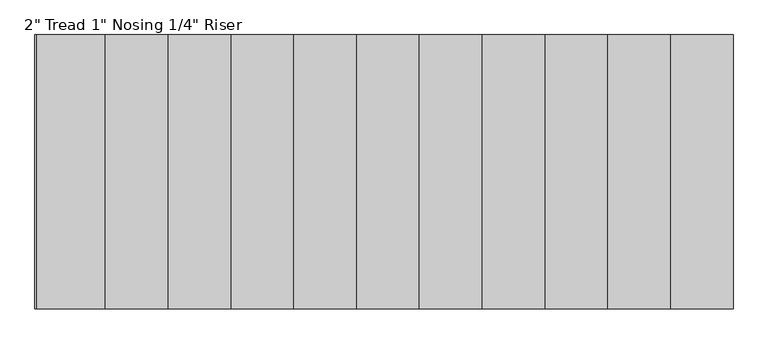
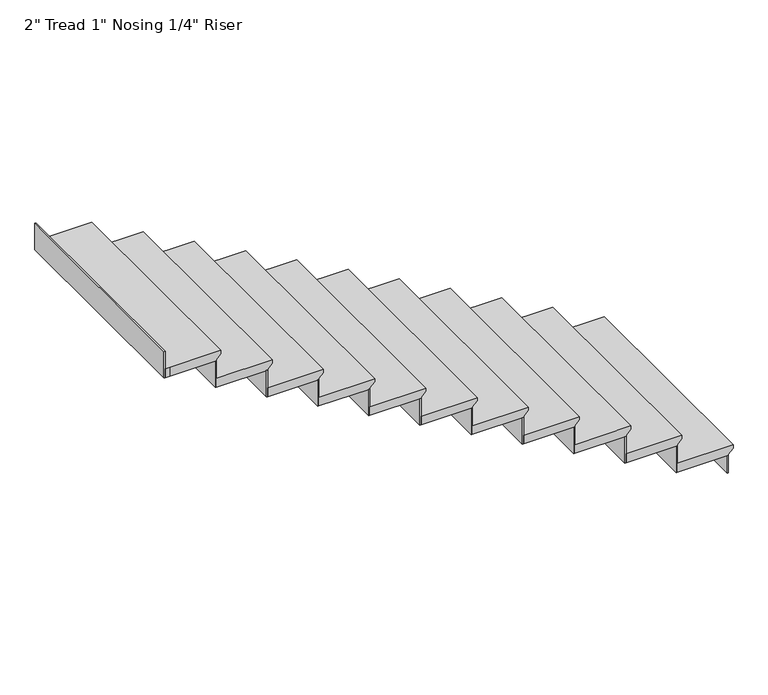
"""IFC4 building model written with IfcOpenShell, lengths in millimetres: stair flight geometry."""

from ifc_helpers import new_model, si_unit, origin, place, context, project, spatial, faceted_brep, source, transform, mapped, element, save


def stair_flight_2eaa03d7(model_context):
    return source(origin(), model_context, "Body", "Brep", [
        faceted_brep([(-14747.5273699, -13711.4253362, 4705.35), (-14747.5273699, -13711.4253362, 4724.4), (-14747.5273699, -14930.6253362, 4724.4), (-14747.5273699, -14930.6253362, 4705.35), (-14772.9273699, -13711.4253362, 4679.95), (-14772.9273699, -14930.6253362, 4679.95), (-15052.3273699, -13711.4253362, 4724.4), (-15052.3273699, -14930.6253362, 4724.4), (-14772.9273699, -14930.6253362, 4673.6), (-15052.3273699, -14930.6253362, 4673.6), (-15052.3273699, -13711.4253362, 4673.6), (-14772.9273699, -13711.4253362, 4673.6)], [[[0, 1, 2, 3]], [[4, 0, 3, 5]], [[2, 1, 6, 7]], [[8, 9, 10, 11]], [[2, 7, 9, 8, 5, 3]], [[8, 11, 4, 5]], [[6, 1, 0, 4, 11, 10]], [[7, 6, 10, 9]]]),
        faceted_brep([(-14772.9273699, -13711.4253362, 4673.6), (-14772.9273699, -13711.4253362, 4572.0), (-14779.2773699, -13711.4253362, 4572.0), (-14779.2773699, -13711.4253362, 4673.6), (-14772.9273699, -14930.6253362, 4673.6), (-14779.2773699, -14930.6253362, 4673.6), (-14779.2773699, -14930.6253362, 4572.0), (-14772.9273699, -14930.6253362, 4572.0)], [[[0, 1, 2, 3]], [[4, 5, 6, 7]], [[1, 0, 4, 7]], [[2, 1, 7, 6]], [[3, 2, 6, 5]], [[0, 3, 5, 4]]]),
        faceted_brep([(-15052.3273699, -13711.4253362, 4826.0), (-15052.3273699, -13711.4253362, 4673.6), (-15058.6773699, -13711.4253362, 4673.6), (-15058.6773699, -13711.4253362, 4826.0), (-15052.3273699, -14930.6253362, 4826.0), (-15058.6773699, -14930.6253362, 4826.0), (-15058.6773699, -14930.6253362, 4673.6), (-15052.3273699, -14930.6253362, 4673.6)], [[[0, 1, 2, 3]], [[4, 5, 6, 7]], [[1, 0, 4, 7]], [[2, 1, 7, 6]], [[3, 2, 6, 5]], [[0, 3, 5, 4]]]),
        faceted_brep([(-15026.9273699, -14930.6253362, 4876.8), (-15026.9273699, -13711.4253362, 4876.8), (-15331.7273699, -13711.4253362, 4876.8), (-15331.7273699, -14930.6253362, 4876.8), (-15052.3273699, -14930.6253362, 4826.0), (-15331.7273699, -14930.6253362, 4826.0), (-15331.7273699, -13711.4253362, 4826.0), (-15052.3273699, -13711.4253362, 4826.0), (-15052.3273699, -14930.6253362, 4832.35), (-15026.9273699, -14930.6253362, 4857.75), (-15052.3273699, -13711.4253362, 4832.35), (-15026.9273699, -13711.4253362, 4857.75)], [[[0, 1, 2, 3]], [[4, 5, 6, 7]], [[0, 3, 5, 4, 8, 9]], [[4, 7, 10, 8]], [[2, 1, 11, 10, 7, 6]], [[3, 2, 6, 5]], [[11, 1, 0, 9]], [[10, 11, 9, 8]]]),
        faceted_brep([(-15331.7273699, -13711.4253362, 4978.4), (-15331.7273699, -13711.4253362, 4826.0), (-15338.0773699, -13711.4253362, 4826.0), (-15338.0773699, -13711.4253362, 4978.4), (-15331.7273699, -14930.6253362, 4978.4), (-15338.0773699, -14930.6253362, 4978.4), (-15338.0773699, -14930.6253362, 4826.0), (-15331.7273699, -14930.6253362, 4826.0)], [[[0, 1, 2, 3]], [[4, 5, 6, 7]], [[1, 0, 4, 7]], [[2, 1, 7, 6]], [[3, 2, 6, 5]], [[0, 3, 5, 4]]]),
        faceted_brep([(-15306.3273699, -14930.6253362, 5029.2), (-15306.3273699, -13711.4253362, 5029.2), (-15611.1273699, -13711.4253362, 5029.2), (-15611.1273699, -14930.6253362, 5029.2), (-15331.7273699, -14930.6253362, 4978.4), (-15611.1273699, -14930.6253362, 4978.4), (-15611.1273699, -13711.4253362, 4978.4), (-15331.7273699, -13711.4253362, 4978.4), (-15331.7273699, -14930.6253362, 4984.75), (-15306.3273699, -14930.6253362, 5010.15), (-15331.7273699, -13711.4253362, 4984.75), (-15306.3273699, -13711.4253362, 5010.15)], [[[0, 1, 2, 3]], [[4, 5, 6, 7]], [[0, 3, 5, 4, 8, 9]], [[4, 7, 10, 8]], [[2, 1, 11, 10, 7, 6]], [[3, 2, 6, 5]], [[11, 1, 0, 9]], [[10, 11, 9, 8]]]),
        faceted_brep([(-15611.1273699, -13711.4253362, 5130.8), (-15611.1273699, -13711.4253362, 4978.4), (-15617.4773699, -13711.4253362, 4978.4), (-15617.4773699, -13711.4253362, 5130.8), (-15611.1273699, -14930.6253362, 5130.8), (-15617.4773699, -14930.6253362, 5130.8), (-15617.4773699, -14930.6253362, 4978.4), (-15611.1273699, -14930.6253362, 4978.4)], [[[0, 1, 2, 3]], [[4, 5, 6, 7]], [[1, 0, 4, 7]], [[2, 1, 7, 6]], [[3, 2, 6, 5]], [[0, 3, 5, 4]]]),
        faceted_brep([(-15585.7273699, -14930.6253362, 5181.6), (-15585.7273699, -13711.4253362, 5181.6), (-15890.5273699, -13711.4253362, 5181.6), (-15890.5273699, -14930.6253362, 5181.6), (-15611.1273699, -14930.6253362, 5130.8), (-15890.5273699, -14930.6253362, 5130.8), (-15890.5273699, -13711.4253362, 5130.8), (-15611.1273699, -13711.4253362, 5130.8), (-15611.1273699, -14930.6253362, 5137.15), (-15585.7273699, -14930.6253362, 5162.55), (-15611.1273699, -13711.4253362, 5137.15), (-15585.7273699, -13711.4253362, 5162.55)], [[[0, 1, 2, 3]], [[4, 5, 6, 7]], [[0, 3, 5, 4, 8, 9]], [[4, 7, 10, 8]], [[2, 1, 11, 10, 7, 6]], [[3, 2, 6, 5]], [[11, 1, 0, 9]], [[10, 11, 9, 8]]]),
        faceted_brep([(-15890.5273699, -13711.4253362, 5283.2), (-15890.5273699, -13711.4253362, 5130.8), (-15896.8773699, -13711.4253362, 5130.8), (-15896.8773699, -13711.4253362, 5283.2), (-15890.5273699, -14930.6253362, 5283.2), (-15896.8773699, -14930.6253362, 5283.2), (-15896.8773699, -14930.6253362, 5130.8), (-15890.5273699, -14930.6253362, 5130.8)], [[[0, 1, 2, 3]], [[4, 5, 6, 7]], [[1, 0, 4, 7]], [[2, 1, 7, 6]], [[3, 2, 6, 5]], [[0, 3, 5, 4]]]),
        faceted_brep([(-15865.1273699, -14930.6253362, 5334.0), (-15865.1273699, -13711.4253362, 5334.0), (-16169.9273699, -13711.4253362, 5334.0), (-16169.9273699, -14930.6253362, 5334.0), (-15890.5273699, -14930.6253362, 5283.2), (-16169.9273699, -14930.6253362, 5283.2), (-16169.9273699, -13711.4253362, 5283.2), (-15890.5273699, -13711.4253362, 5283.2), (-15890.5273699, -14930.6253362, 5289.55), (-15865.1273699, -14930.6253362, 5314.95), (-15890.5273699, -13711.4253362, 5289.55), (-15865.1273699, -13711.4253362, 5314.95)], [[[0, 1, 2, 3]], [[4, 5, 6, 7]], [[0, 3, 5, 4, 8, 9]], [[4, 7, 10, 8]], [[2, 1, 11, 10, 7, 6]], [[3, 2, 6, 5]], [[11, 1, 0, 9]], [[10, 11, 9, 8]]]),
        faceted_brep([(-16169.9273699, -13711.4253362, 5435.6), (-16169.9273699, -13711.4253362, 5283.2), (-16176.2773699, -13711.4253362, 5283.2), (-16176.2773699, -13711.4253362, 5435.6), (-16169.9273699, -14930.6253362, 5435.6), (-16176.2773699, -14930.6253362, 5435.6), (-16176.2773699, -14930.6253362, 5283.2), (-16169.9273699, -14930.6253362, 5283.2)], [[[0, 1, 2, 3]], [[4, 5, 6, 7]], [[1, 0, 4, 7]], [[2, 1, 7, 6]], [[3, 2, 6, 5]], [[0, 3, 5, 4]]]),
        faceted_brep([(-16144.5273699, -14930.6253362, 5486.4), (-16144.5273699, -13711.4253362, 5486.4), (-16449.3273699, -13711.4253362, 5486.4), (-16449.3273699, -14930.6253362, 5486.4), (-16169.9273699, -14930.6253362, 5435.6), (-16449.3273699, -14930.6253362, 5435.6), (-16449.3273699, -13711.4253362, 5435.6), (-16169.9273699, -13711.4253362, 5435.6), (-16169.9273699, -14930.6253362, 5441.95), (-16144.5273699, -14930.6253362, 5467.35), (-16169.9273699, -13711.4253362, 5441.95), (-16144.5273699, -13711.4253362, 5467.35)], [[[0, 1, 2, 3]], [[4, 5, 6, 7]], [[0, 3, 5, 4, 8, 9]], [[4, 7, 10, 8]], [[2, 1, 11, 10, 7, 6]], [[3, 2, 6, 5]], [[11, 1, 0, 9]], [[10, 11, 9, 8]]]),
        faceted_brep([(-16449.3273699, -13711.4253362, 5588.0), (-16449.3273699, -13711.4253362, 5435.6), (-16455.6773699, -13711.4253362, 5435.6), (-16455.6773699, -13711.4253362, 5588.0), (-16449.3273699, -14930.6253362, 5588.0), (-16455.6773699, -14930.6253362, 5588.0), (-16455.6773699, -14930.6253362, 5435.6), (-16449.3273699, -14930.6253362, 5435.6)], [[[0, 1, 2, 3]], [[4, 5, 6, 7]], [[1, 0, 4, 7]], [[2, 1, 7, 6]], [[3, 2, 6, 5]], [[0, 3, 5, 4]]]),
        faceted_brep([(-16423.9273699, -14930.6253362, 5638.8), (-16423.9273699, -13711.4253362, 5638.8), (-16728.7273699, -13711.4253362, 5638.8), (-16728.7273699, -14930.6253362, 5638.8), (-16449.3273699, -14930.6253362, 5588.0), (-16728.7273699, -14930.6253362, 5588.0), (-16728.7273699, -13711.4253362, 5588.0), (-16449.3273699, -13711.4253362, 5588.0), (-16449.3273699, -14930.6253362, 5594.35), (-16423.9273699, -14930.6253362, 5619.75), (-16449.3273699, -13711.4253362, 5594.35), (-16423.9273699, -13711.4253362, 5619.75)], [[[0, 1, 2, 3]], [[4, 5, 6, 7]], [[0, 3, 5, 4, 8, 9]], [[4, 7, 10, 8]], [[2, 1, 11, 10, 7, 6]], [[3, 2, 6, 5]], [[11, 1, 0, 9]], [[10, 11, 9, 8]]]),
        faceted_brep([(-16728.7273699, -13711.4253362, 5740.4), (-16728.7273699, -13711.4253362, 5588.0), (-16735.0773699, -13711.4253362, 5588.0), (-16735.0773699, -13711.4253362, 5740.4), (-16728.7273699, -14930.6253362, 5740.4), (-16735.0773699, -14930.6253362, 5740.4), (-16735.0773699, -14930.6253362, 5588.0), (-16728.7273699, -14930.6253362, 5588.0)], [[[0, 1, 2, 3]], [[4, 5, 6, 7]], [[1, 0, 4, 7]], [[2, 1, 7, 6]], [[3, 2, 6, 5]], [[0, 3, 5, 4]]]),
        faceted_brep([(-16703.3273699, -14930.6253362, 5791.2), (-16703.3273699, -13711.4253362, 5791.2), (-17008.1273699, -13711.4253362, 5791.2), (-17008.1273699, -14930.6253362, 5791.2), (-16728.7273699, -14930.6253362, 5740.4), (-17008.1273699, -14930.6253362, 5740.4), (-17008.1273699, -13711.4253362, 5740.4), (-16728.7273699, -13711.4253362, 5740.4), (-16728.7273699, -14930.6253362, 5746.75), (-16703.3273699, -14930.6253362, 5772.15), (-16728.7273699, -13711.4253362, 5746.75), (-16703.3273699, -13711.4253362, 5772.15)], [[[0, 1, 2, 3]], [[4, 5, 6, 7]], [[0, 3, 5, 4, 8, 9]], [[4, 7, 10, 8]], [[2, 1, 11, 10, 7, 6]], [[3, 2, 6, 5]], [[11, 1, 0, 9]], [[10, 11, 9, 8]]]),
        faceted_brep([(-17008.1273699, -13711.4253362, 5892.8), (-17008.1273699, -13711.4253362, 5740.4), (-17014.4773699, -13711.4253362, 5740.4), (-17014.4773699, -13711.4253362, 5892.8), (-17008.1273699, -14930.6253362, 5892.8), (-17014.4773699, -14930.6253362, 5892.8), (-17014.4773699, -14930.6253362, 5740.4), (-17008.1273699, -14930.6253362, 5740.4)], [[[0, 1, 2, 3]], [[4, 5, 6, 7]], [[1, 0, 4, 7]], [[2, 1, 7, 6]], [[3, 2, 6, 5]], [[0, 3, 5, 4]]]),
        faceted_brep([(-16982.7273699, -14930.6253362, 5943.6), (-16982.7273699, -13711.4253362, 5943.6), (-17287.5273699, -13711.4253362, 5943.6), (-17287.5273699, -14930.6253362, 5943.6), (-17008.1273699, -14930.6253362, 5892.8), (-17287.5273699, -14930.6253362, 5892.8), (-17287.5273699, -13711.4253362, 5892.8), (-17008.1273699, -13711.4253362, 5892.8), (-17008.1273699, -14930.6253362, 5899.15), (-16982.7273699, -14930.6253362, 5924.55), (-17008.1273699, -13711.4253362, 5899.15), (-16982.7273699, -13711.4253362, 5924.55)], [[[0, 1, 2, 3]], [[4, 5, 6, 7]], [[0, 3, 5, 4, 8, 9]], [[4, 7, 10, 8]], [[2, 1, 11, 10, 7, 6]], [[3, 2, 6, 5]], [[11, 1, 0, 9]], [[10, 11, 9, 8]]]),
        faceted_brep([(-17287.5273699, -13711.4253362, 6045.2), (-17287.5273699, -13711.4253362, 5892.8), (-17293.8773699, -13711.4253362, 5892.8), (-17293.8773699, -13711.4253362, 6045.2), (-17287.5273699, -14930.6253362, 6045.2), (-17293.8773699, -14930.6253362, 6045.2), (-17293.8773699, -14930.6253362, 5892.8), (-17287.5273699, -14930.6253362, 5892.8)], [[[0, 1, 2, 3]], [[4, 5, 6, 7]], [[1, 0, 4, 7]], [[2, 1, 7, 6]], [[3, 2, 6, 5]], [[0, 3, 5, 4]]]),
        faceted_brep([(-17262.1273699, -14930.6253362, 6096.0), (-17262.1273699, -13711.4253362, 6096.0), (-17566.9273699, -13711.4253362, 6096.0), (-17566.9273699, -14930.6253362, 6096.0), (-17287.5273699, -14930.6253362, 6045.2), (-17566.9273699, -14930.6253362, 6045.2), (-17566.9273699, -13711.4253362, 6045.2), (-17287.5273699, -13711.4253362, 6045.2), (-17287.5273699, -14930.6253362, 6051.55), (-17262.1273699, -14930.6253362, 6076.95), (-17287.5273699, -13711.4253362, 6051.55), (-17262.1273699, -13711.4253362, 6076.95)], [[[0, 1, 2, 3]], [[4, 5, 6, 7]], [[0, 3, 5, 4, 8, 9]], [[4, 7, 10, 8]], [[2, 1, 11, 10, 7, 6]], [[3, 2, 6, 5]], [[11, 1, 0, 9]], [[10, 11, 9, 8]]]),
        faceted_brep([(-17846.3273699, -13711.4253362, 6350.0), (-17846.3273699, -13711.4253362, 6197.6), (-17852.6773699, -13711.4253362, 6197.6), (-17852.6773699, -13711.4253362, 6350.0), (-17846.3273699, -14930.6253362, 6350.0), (-17852.6773699, -14930.6253362, 6350.0), (-17852.6773699, -14930.6253362, 6197.6), (-17846.3273699, -14930.6253362, 6197.6)], [[[0, 1, 2, 3]], [[4, 5, 6, 7]], [[1, 0, 4, 7]], [[2, 1, 7, 6]], [[3, 2, 6, 5]], [[0, 3, 5, 4]]]),
        faceted_brep([(-17566.9273699, -13711.4253362, 6197.6), (-17566.9273699, -13711.4253362, 6045.2), (-17573.2773699, -13711.4253362, 6045.2), (-17573.2773699, -13711.4253362, 6197.6), (-17566.9273699, -14930.6253362, 6197.6), (-17573.2773699, -14930.6253362, 6197.6), (-17573.2773699, -14930.6253362, 6045.2), (-17566.9273699, -14930.6253362, 6045.2)], [[[0, 1, 2, 3]], [[4, 5, 6, 7]], [[1, 0, 4, 7]], [[2, 1, 7, 6]], [[3, 2, 6, 5]], [[0, 3, 5, 4]]]),
        faceted_brep([(-17846.3273699, -14930.6253362, 6248.4), (-17820.9273699, -14930.6253362, 6248.4), (-17541.5273699, -14930.6253362, 6248.4), (-17541.5273699, -13711.4253362, 6248.4), (-17820.9273699, -13711.4253362, 6248.4), (-17846.3273699, -13711.4253362, 6248.4), (-17820.9273699, -14930.6253362, 6197.6), (-17846.3273699, -14930.6253362, 6197.6), (-17846.3273699, -13711.4253362, 6197.6), (-17820.9273699, -13711.4253362, 6197.6), (-17566.9273699, -13711.4253362, 6197.6), (-17566.9273699, -14930.6253362, 6197.6), (-17566.9273699, -14930.6253362, 6203.95), (-17541.5273699, -14930.6253362, 6229.35), (-17566.9273699, -13711.4253362, 6203.95), (-17541.5273699, -13711.4253362, 6229.35)], [[[0, 1, 2, 3, 4, 5]], [[6, 7, 8, 9, 10, 11]], [[1, 0, 7, 6]], [[2, 1, 6, 11, 12, 13]], [[11, 10, 14, 12]], [[4, 3, 15, 14, 10, 9]], [[5, 4, 9, 8]], [[0, 5, 8, 7]], [[15, 3, 2, 13]], [[14, 15, 13, 12]]]),
    ])


if __name__ == "__main__":
    model = new_model("IFC4")
    model_context = context("Model", 3, world=origin())
    ifc_project = project(units=[si_unit("LENGTHUNIT", "METRE", prefix="MILLI")], contexts=[model_context])
    site = spatial("IfcSite", under=ifc_project)
    building = spatial("IfcBuilding", under=site)
    placement = place(None, origin())
    stair_flight_shape = stair_flight_2eaa03d7(model_context)
    element("IfcStairFlight", 1, ObjectType="2\" Tread 1\" Nosing 1/4\" Riser", at=placement, inside=building, context=model_context, shape_type="MappedRepresentation", body=[
        mapped(stair_flight_shape, transform((0.0, 0.0, 0.0), x_axis=(1.0, 0.0, 0.0), y_axis=(0.0, 1.0, 0.0), z_axis=(0.0, 0.0, 1.0))),
    ])
    save(model, "model.ifc")
